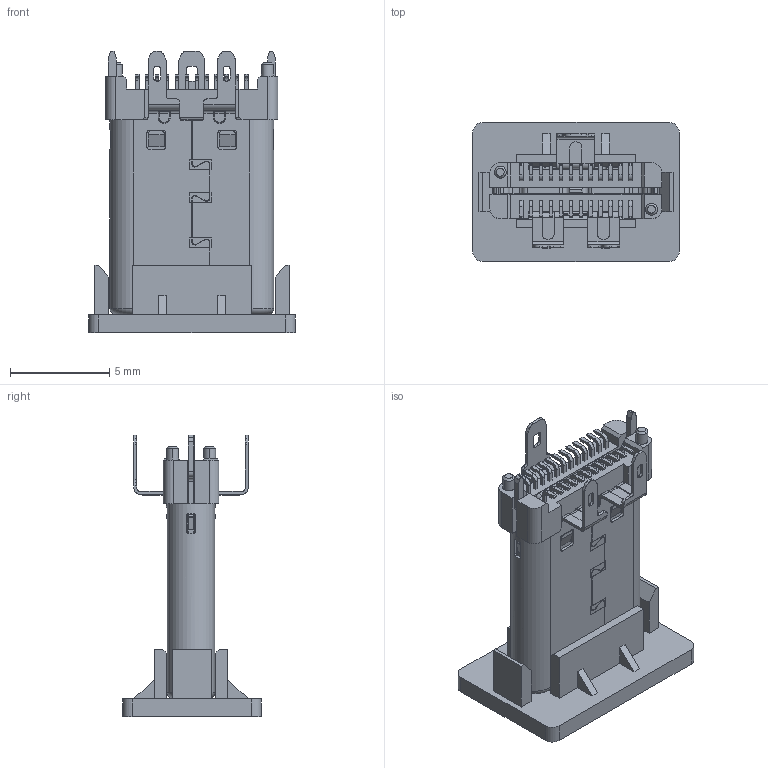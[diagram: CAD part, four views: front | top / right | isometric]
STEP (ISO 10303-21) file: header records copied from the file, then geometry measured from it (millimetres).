
FILE_DESCRIPTION (( 'STEP AP203' ), '1' );
FILE_NAME ('装配体3.STEP', '2024-01-25T08:19:20', ( '微软用户' ), ( '微软中国' ), 'SwSTEP 2.0', 'SolidWorks 2019', '' );
FILE_SCHEMA (( 'CONFIG_CONTROL_DESIGN' ));
Length unit declared in the file: millimetre
Products named in the file (3): TYPE-C 24PIN立式贴片公头 三支脚 H=12.0MM; 24PIN立贴公头后塞^装配体3; 蚾饜极3
Assembly tree (2 placements, depth 2):
  蚾饜极3
    TYPE-C 24PIN立式贴片公头 三支脚 H=12.0MM
    24PIN立贴公头后塞^装配体3
Bounding box: 10.4 x 7 x 14.17 mm (x, y, z)
Volume: 271.6 mm3; surface area: 1813 mm2
Topology: 35 solids, 35 shells, 3176 faces, 9083 edges, 5955 vertices
Faces by surface type: plane 2241, cylinder 828, cone 43, bspline 40, torus 24
Entity records: 105531 total; most frequent: CARTESIAN_POINT 22106, ORIENTED_EDGE 18166, DIRECTION 16200, EDGE_CURVE 9083, VECTOR 6846, LINE 6846, VERTEX_POINT 5955, AXIS2_PLACEMENT_3D 4677
